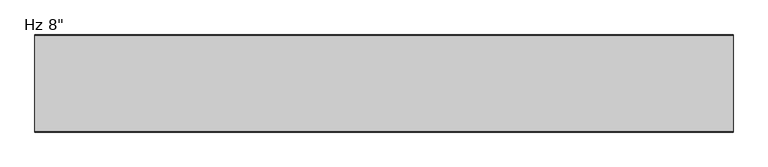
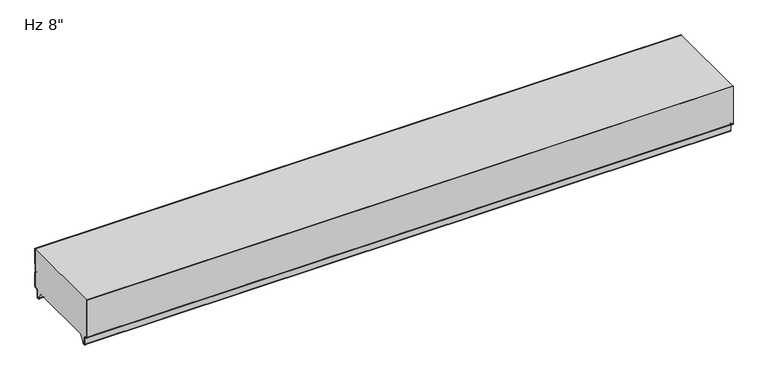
"""IFC4 building model written with IfcOpenShell, lengths in millimetres: plate geometry."""

from ifc_helpers import new_model, si_unit, frame, origin, place, context, project, spatial, polyline, circle_curve, source, transform, mapped, element, save
from ifc_brep_helpers import plane_surface, cylinder_surface, revolved_surface, advanced_brep


def plate_18e5794d(model_context):
    return source(origin(), model_context, "Body", "AdvancedBrep", [
        advanced_brep(
        [(-730.0, -1.0, 59.9218553), (-730.0, -1.0, 94.95), (-730.0, 0.0, 94.95), (-730.0, 0.0, 59.479416), (-730.0, -1.1911595, 58.4068912), (-730.0, -1.1911595, 39.5087751), (-730.0, 0.0, 38.4362503), (-730.0, 0.0, 5.8272193), (-730.0, -2.9772904, 2.8499526), (-730.0, -5.2691742, 2.8499526), (-730.0, -8.2464427, -0.1273159), (-730.0, -8.2464427, -15.7237419), (-730.0, -9.8343193, -17.3116185), (-730.0, -12.905868, -17.3116185), (-730.0, -14.4937445, -15.7237419), (-730.0, -14.4937445, -13.3687064), (-730.0, -13.4937445, -13.3687064), (-730.0, -13.4937445, -15.7237419), (-730.0, -12.905868, -16.3116185), (-730.0, -9.8343193, -16.3116185), (-730.0, -9.2464427, -15.7237419), (-730.0, -9.2464427, -0.1273159), (-730.0, -5.2691742, 3.8499526), (-730.0, -2.9772904, 3.8499526), (-730.0, -1.0000218, 5.82722), (-730.0, -1.0, 37.993811), (-730.0, -2.1911595, 39.0663358), (-730.0, -2.1911595, 58.8493305), (730.0, 0.0, 59.479416), (730.0, 0.0, 94.95), (730.0, -1.0, 94.95), (730.0, -1.0, 59.9218553), (730.0, -2.1911595, 58.8493305), (730.0, -2.1911595, 39.0663358), (730.0, -1.0, 37.993811), (730.0, -1.0, 5.82722), (730.0, -2.9772904, 3.8499526), (730.0, -5.2691742, 3.8499526), (730.0, -9.2464427, -0.1273159), (730.0, -9.2464427, -15.7237419), (730.0, -9.8343193, -16.3116185), (730.0, -12.905868, -16.3116185), (730.0, -13.4937445, -15.7237419), (730.0, -13.4937445, -13.3687064), (730.0, -14.4937445, -13.3687064), (730.0, -14.4937445, -15.7237419), (730.0, -12.905868, -17.3116185), (730.0, -9.8343193, -17.3116185), (730.0, -8.2464427, -15.7237419), (730.0, -8.2464427, -0.1273159), (730.0, -5.2691742, 2.8499526), (730.0, -2.9772904, 2.8499526), (730.0, -2.18e-05, 5.8272193), (730.0, 0.0, 38.4362503), (730.0, -1.1911595, 39.5087751), (730.0, -1.1911595, 58.4068912)],
        [
            (0, 1),
            (1, 2),
            (2, 3),
            (3, 4),
            (4, 5),
            (5, 6),
            (6, 7),
            (7, 8, circle_curve(frame((-730.0, -2.9772904, 5.8272211), z_axis=(-1.0, 0.0, 0.0), x_axis=(0.0, 1.0, 0.0)), 2.9772685)),
            (8, 9),
            (9, 10, circle_curve(frame((-730.0, -5.2691742, -0.1273159), z_axis=(1.0, 0.0, 0.0), x_axis=(0.0, 1.0, 0.0)), 2.9772685)),
            (10, 11),
            (11, 12, circle_curve(frame((-730.0, -9.8343193, -15.7237419), z_axis=(-1.0, 0.0, 0.0), x_axis=(0.0, 1.0, 0.0)), 1.5878765)),
            (12, 13),
            (13, 14, circle_curve(frame((-730.0, -12.905868, -15.7237419), z_axis=(-1.0, 0.0, 0.0), x_axis=(0.0, 1.0, 0.0)), 1.5878765)),
            (14, 15),
            (15, 16),
            (16, 17),
            (17, 18, circle_curve(frame((-730.0, -12.905868, -15.7237419), z_axis=(1.0, 0.0, 0.0), x_axis=(0.0, 1.0, 0.0)), 0.5878765)),
            (18, 19),
            (19, 20, circle_curve(frame((-730.0, -9.8343193, -15.7237419), z_axis=(1.0, 0.0, 0.0), x_axis=(0.0, 1.0, 0.0)), 0.5878765)),
            (20, 21),
            (21, 22, circle_curve(frame((-730.0, -5.2691742, -0.1273159), z_axis=(-1.0, 0.0, 0.0), x_axis=(0.0, 1.0, 0.0)), 3.9772685)),
            (22, 23),
            (23, 24, circle_curve(frame((-730.0, -2.9772904, 5.8272212), z_axis=(1.0, 0.0, 0.0), x_axis=(0.0, 1.0, 0.0)), 1.9772685)),
            (24, 25),
            (25, 26),
            (26, 27),
            (27, 0),
            (28, 29),
            (29, 30),
            (30, 31),
            (31, 32),
            (32, 33),
            (33, 34),
            (34, 35),
            (35, 36, circle_curve(frame((730.0, -2.9772904, 5.8272212), z_axis=(-1.0, 0.0, 0.0), x_axis=(0.0, 1.0, 0.0)), 1.9772685)),
            (36, 37),
            (37, 38, circle_curve(frame((730.0, -5.2691742, -0.1273159), z_axis=(1.0, 0.0, 0.0), x_axis=(0.0, 1.0, 0.0)), 3.9772685)),
            (38, 39),
            (39, 40, circle_curve(frame((730.0, -9.8343193, -15.7237419), z_axis=(-1.0, 0.0, 0.0), x_axis=(0.0, 1.0, 0.0)), 0.5878765)),
            (40, 41),
            (41, 42, circle_curve(frame((730.0, -12.905868, -15.7237419), z_axis=(-1.0, 0.0, 0.0), x_axis=(0.0, 1.0, 0.0)), 0.5878765)),
            (42, 43),
            (43, 44),
            (44, 45),
            (45, 46, circle_curve(frame((730.0, -12.905868, -15.7237419), z_axis=(1.0, 0.0, 0.0), x_axis=(0.0, 1.0, 0.0)), 1.5878765)),
            (46, 47),
            (47, 48, circle_curve(frame((730.0, -9.8343193, -15.7237419), z_axis=(1.0, 0.0, 0.0), x_axis=(0.0, 1.0, 0.0)), 1.5878765)),
            (48, 49),
            (49, 50, circle_curve(frame((730.0, -5.2691742, -0.1273159), z_axis=(-1.0, 0.0, 0.0), x_axis=(0.0, 1.0, 0.0)), 2.9772685)),
            (50, 51),
            (51, 52, circle_curve(frame((730.0, -2.9772904, 5.8272211), z_axis=(1.0, 0.0, 0.0), x_axis=(0.0, 1.0, 0.0)), 2.9772685)),
            (52, 53),
            (53, 54),
            (54, 55),
            (55, 28),
            (30, 1),
            (0, 31),
            (27, 32),
            (26, 33),
            (25, 34),
            (24, 35),
            (23, 36),
            (22, 37),
            (21, 38),
            (20, 39),
            (19, 40),
            (18, 41),
            (17, 42),
            (16, 43),
            (15, 44),
            (14, 45),
            (13, 46),
            (12, 47),
            (11, 48),
            (10, 49),
            (9, 50),
            (8, 51),
            (7, 52),
            (6, 53),
            (5, 54),
            (4, 55),
            (3, 28),
            (2, 29),
        ],
        [
            plane_surface(frame((-730.0, 0.0, 576.2625), z_axis=(-1.0, 0.0, 0.0), x_axis=(0.0, 1.0, 0.0))),
            plane_surface(frame((730.0, 0.0, 576.2625), z_axis=(1.0, 0.0, 0.0), x_axis=(0.0, 1.0, 0.0))),
            plane_surface(frame((-730.0, -1.0, 113.6164312), z_axis=(0.0, -1.0, 0.0), x_axis=(1.0, 0.0, 0.0))),
            plane_surface(frame((-730.0, -1.0, 59.9218553), z_axis=(0.0, -0.6691306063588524, 0.7431448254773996), x_axis=(1.0, 0.0, 0.0))),
            plane_surface(frame((-730.0, -2.1911595, 58.8493305), z_axis=(0.0, -1.0, 0.0), x_axis=(1.0, 0.0, 0.0))),
            plane_surface(frame((-730.0, -2.1911595, 39.0663358), z_axis=(0.0, -0.6691306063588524, -0.7431448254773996), x_axis=(1.0, 0.0, 0.0))),
            plane_surface(frame((-730.0, -1.0, 37.993811), z_axis=(0.0, -1.0, 0.0), x_axis=(1.0, 0.0, 0.0))),
            revolved_surface(polyline([(730.0, -1.0000218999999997, 5.8272212), (-730.0, -1.0000218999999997, 5.8272212)]), (-730.0, -2.9772904, 5.8272212), (1.0, 0.0, 0.0)),
            plane_surface(frame((-730.0, -2.9772904, 3.8499526), z_axis=(0.0, 0.0, 1.0), x_axis=(1.0, 0.0, 0.0))),
            cylinder_surface(frame((-730.0, -5.2691742, -0.1273159), z_axis=(-1.0, 0.0, 0.0), x_axis=(0.0, 1.0, 0.0)), 3.9772685),
            plane_surface(frame((-730.0, -9.2464427, -0.1273159), z_axis=(0.0, -1.0, 0.0), x_axis=(1.0, 0.0, 0.0))),
            revolved_surface(polyline([(730.0, -9.2464428, -15.7237419), (-730.0, -9.2464428, -15.7237419)]), (-730.0, -9.8343193, -15.7237419), (1.0, 0.0, 0.0)),
            plane_surface(frame((-730.0, -9.8343193, -16.3116185), z_axis=(0.0, 0.0, 1.0), x_axis=(1.0, 0.0, 0.0))),
            revolved_surface(polyline([(730.0, -12.3179915, -15.7237419), (-730.0, -12.3179915, -15.7237419)]), (-730.0, -12.905868, -15.7237419), (1.0, 0.0, 0.0)),
            plane_surface(frame((-730.0, -13.4937445, -15.7237419), z_axis=(0.0, 1.0, 0.0), x_axis=(1.0, 0.0, 0.0))),
            plane_surface(frame((-730.0, -13.4937445, -13.3687064), z_axis=(0.0, 0.0, 1.0), x_axis=(1.0, 0.0, 0.0))),
            plane_surface(frame((-730.0, -14.4937445, -13.3687064), z_axis=(0.0, -1.0, 0.0), x_axis=(1.0, 0.0, 0.0))),
            cylinder_surface(frame((-730.0, -12.905868, -15.7237419), z_axis=(-1.0, 0.0, 0.0), x_axis=(0.0, 1.0, 0.0)), 1.5878765),
            plane_surface(frame((-730.0, -12.905868, -17.3116185), z_axis=(0.0, 0.0, -1.0), x_axis=(1.0, 0.0, 0.0))),
            cylinder_surface(frame((-730.0, -9.8343193, -15.7237419), z_axis=(-1.0, 0.0, 0.0), x_axis=(0.0, 1.0, 0.0)), 1.5878765),
            plane_surface(frame((-730.0, -8.2464427, -15.7237419), z_axis=(0.0, 1.0, 0.0), x_axis=(1.0, 0.0, 0.0))),
            revolved_surface(polyline([(730.0, -2.2919057, -0.1273159), (-730.0, -2.2919057, -0.1273159)]), (-730.0, -5.2691742, -0.1273159), (1.0, 0.0, 0.0)),
            plane_surface(frame((-730.0, -5.2691742, 2.8499526), z_axis=(0.0, 0.0, -1.0), x_axis=(1.0, 0.0, 0.0))),
            cylinder_surface(frame((-730.0, -2.9772904, 5.8272211), z_axis=(-1.0, 0.0, 0.0), x_axis=(0.0, 1.0, 0.0)), 2.9772685),
            plane_surface(frame((-730.0, 0.0, 5.8272193), z_axis=(0.0, 1.0, 0.0), x_axis=(1.0, 0.0, 0.0))),
            plane_surface(frame((-730.0, 0.0, 38.4362503), z_axis=(0.0, 0.6691306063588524, 0.7431448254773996), x_axis=(1.0, 0.0, 0.0))),
            plane_surface(frame((-730.0, -1.1911595, 39.5087751), z_axis=(0.0, 1.0, 0.0), x_axis=(1.0, 0.0, 0.0))),
            plane_surface(frame((-730.0, -1.1911595, 58.4068912), z_axis=(0.0, 0.6691306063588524, -0.7431448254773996), x_axis=(1.0, 0.0, 0.0))),
            plane_surface(frame((-730.0, 0.0, 59.479416), z_axis=(0.0, 1.0, 0.0), x_axis=(1.0, 0.0, 0.0))),
            plane_surface(frame((730.0, 10.0, 94.95), z_axis=(0.0, 0.0, 1.0), x_axis=(-1.0, 0.0, 0.0))),
        ],
        [
            (0, [[1, 2, 3, 4, 5, 6, 7, 8, 9, 10, 11, 12, 13, 14, 15, 16, 17, 18, 19, 20, 21, 22, 23, 24, 25, 26, 27, 28]]),
            (1, [[29, 30, 31, 32, 33, 34, 35, 36, 37, 38, 39, 40, 41, 42, 43, 44, 45, 46, 47, 48, 49, 50, 51, 52, 53, 54, 55, 56]]),
            (2, [[-31, 57, -1, 58]]),
            (3, [[59, -32, -58, -28]]),
            (4, [[60, -33, -59, -27]]),
            (5, [[61, -34, -60, -26]]),
            (6, [[62, -35, -61, -25]]),
            (7, [[63, -36, -62, -24]]),
            (8, [[64, -37, -63, -23]]),
            (9, [[65, -38, -64, -22]]),
            (10, [[66, -39, -65, -21]]),
            (11, [[67, -40, -66, -20]]),
            (12, [[68, -41, -67, -19]]),
            (13, [[69, -42, -68, -18]]),
            (14, [[70, -43, -69, -17]]),
            (15, [[71, -44, -70, -16]]),
            (16, [[72, -45, -71, -15]]),
            (17, [[73, -46, -72, -14]]),
            (18, [[74, -47, -73, -13]]),
            (19, [[75, -48, -74, -12]]),
            (20, [[76, -49, -75, -11]]),
            (21, [[77, -50, -76, -10]]),
            (22, [[78, -51, -77, -9]]),
            (23, [[79, -52, -78, -8]]),
            (24, [[80, -53, -79, -7]]),
            (25, [[81, -54, -80, -6]]),
            (26, [[82, -55, -81, -5]]),
            (27, [[83, -56, -82, -4]]),
            (28, [[-3, 84, -29, -83]]),
            (29, [[-57, -30, -84, -2]]),
        ],
    ),
        advanced_brep(
        [(-730.0, -200.2223811, 3.8501063), (-730.0, -197.9308685, 3.8501063), (-730.0, -193.9535232, -0.1272391), (-730.0, -193.9535232, -15.7237514), (-730.0, -193.365666, -16.3116086), (-730.0, -190.2941346, -16.3116086), (-730.0, -189.7062635, -15.7237374), (-730.0, -189.7062635, -13.3687064), (-730.0, -188.7062599, -13.3687064), (-730.0, -188.7062599, -15.7237419), (-730.0, -190.2941364, -17.3116185), (-730.0, -193.3656851, -17.3116185), (-730.0, -194.9535616, -15.7237419), (-730.0, -194.9535616, -0.1273159), (-730.0, -197.9308302, 2.8499526), (-730.0, -200.222714, 2.8499526), (-730.0, -203.1999825, 5.8272211), (-730.0, -203.2, 94.95), (-730.0, -202.1992912, 94.95), (-730.0, -202.1992912, 5.8270163), (730.0, -200.2223811, 3.8501063), (730.0, -202.1992912, 5.8270163), (730.0, -202.1992912, 94.95), (730.0, -203.2, 94.95), (730.0, -203.2, 5.8272211), (730.0, -200.222714, 2.8499526), (730.0, -197.9308302, 2.8499526), (730.0, -194.9535616, -0.1273159), (730.0, -194.9535616, -15.7237419), (730.0, -193.3656851, -17.3116185), (730.0, -190.2941364, -17.3116185), (730.0, -188.7062599, -15.7237419), (730.0, -188.7062599, -13.3687064), (730.0, -189.7062635, -13.3687064), (730.0, -189.7062635, -15.7237374), (730.0, -190.2941346, -16.3116086), (730.0, -193.365666, -16.3116086), (730.0, -193.9535232, -15.7237514), (730.0, -193.9535232, -0.1272391), (730.0, -197.9308685, 3.8501063)],
        [
            (0, 1),
            (1, 2, circle_curve(frame((-730.0, -197.9308685, -0.1272391), z_axis=(-1.0, 0.0, 0.0), x_axis=(0.0, 0.0, -1.0)), 3.9773454)),
            (2, 3),
            (3, 4, circle_curve(frame((-730.0, -193.365666, -15.7237514), z_axis=(1.0, 0.0, 0.0), x_axis=(0.0, 0.0, -1.0)), 0.5878572)),
            (4, 5),
            (5, 6, circle_curve(frame((-730.0, -190.2941346, -15.7237374), z_axis=(1.0, 0.0, 0.0), x_axis=(0.0, 0.0, -1.0)), 0.5878711)),
            (6, 7),
            (7, 8),
            (8, 9),
            (9, 10, circle_curve(frame((-730.0, -190.2941364, -15.7237419), z_axis=(-1.0, 0.0, 0.0), x_axis=(0.0, 0.0, -1.0)), 1.5878765)),
            (10, 11),
            (11, 12, circle_curve(frame((-730.0, -193.3656851, -15.7237419), z_axis=(-1.0, 0.0, 0.0), x_axis=(0.0, 0.0, -1.0)), 1.5878765)),
            (12, 13),
            (13, 14, circle_curve(frame((-730.0, -197.9308302, -0.1273159), z_axis=(1.0, 0.0, 0.0), x_axis=(0.0, 0.0, -1.0)), 2.9772685)),
            (14, 15),
            (15, 16, circle_curve(frame((-730.0, -200.222714, 5.8272211), z_axis=(-1.0, 0.0, 0.0), x_axis=(0.0, 0.0, -1.0)), 2.9772685)),
            (16, 17),
            (17, 18),
            (18, 19),
            (19, 0, circle_curve(frame((-730.0, -200.2223811, 5.8270163), z_axis=(1.0, 0.0, 0.0), x_axis=(0.0, 0.0, -1.0)), 1.9769101)),
            (20, 21, circle_curve(frame((730.0, -200.2223811, 5.8270163), z_axis=(-1.0, 0.0, 0.0), x_axis=(0.0, 0.0, -1.0)), 1.9769101)),
            (21, 22),
            (22, 23),
            (23, 24),
            (24, 25, circle_curve(frame((730.0, -200.222714, 5.8272211), z_axis=(1.0, 0.0, 0.0), x_axis=(0.0, 0.0, -1.0)), 2.9772685)),
            (25, 26),
            (26, 27, circle_curve(frame((730.0, -197.9308302, -0.1273159), z_axis=(-1.0, 0.0, 0.0), x_axis=(0.0, 0.0, -1.0)), 2.9772685)),
            (27, 28),
            (28, 29, circle_curve(frame((730.0, -193.3656851, -15.7237419), z_axis=(1.0, 0.0, 0.0), x_axis=(0.0, 0.0, -1.0)), 1.5878765)),
            (29, 30),
            (30, 31, circle_curve(frame((730.0, -190.2941364, -15.7237419), z_axis=(1.0, 0.0, 0.0), x_axis=(0.0, 0.0, -1.0)), 1.5878765)),
            (31, 32),
            (32, 33),
            (33, 34),
            (34, 35, circle_curve(frame((730.0, -190.2941346, -15.7237374), z_axis=(-1.0, 0.0, 0.0), x_axis=(0.0, 0.0, -1.0)), 0.5878711)),
            (35, 36),
            (36, 37, circle_curve(frame((730.0, -193.365666, -15.7237514), z_axis=(-1.0, 0.0, 0.0), x_axis=(0.0, 0.0, -1.0)), 0.5878572)),
            (37, 38),
            (38, 39, circle_curve(frame((730.0, -197.9308685, -0.1272391), z_axis=(1.0, 0.0, 0.0), x_axis=(0.0, 0.0, -1.0)), 3.9773454)),
            (39, 20),
            (17, 23),
            (22, 18),
            (19, 21),
            (20, 0),
            (16, 24),
            (15, 25),
            (14, 26),
            (13, 27),
            (12, 28),
            (11, 29),
            (10, 30),
            (9, 31),
            (8, 32),
            (7, 33),
            (6, 34),
            (5, 35),
            (4, 36),
            (3, 37),
            (2, 38),
            (1, 39),
        ],
        [
            plane_surface(frame((-730.0, -203.2, 576.2625), z_axis=(-1.0, 0.0, 0.0), x_axis=(0.0, -1.0, 0.0))),
            plane_surface(frame((730.0, -203.2, 576.2625), z_axis=(1.0, 0.0, 0.0), x_axis=(0.0, -1.0, 0.0))),
            plane_surface(frame((730.0, 10.0, 94.95), z_axis=(0.0, 0.0, 1.0), x_axis=(-1.0, 0.0, 0.0))),
            revolved_surface(polyline([(730.0, -200.2223811, 3.8501062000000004), (-730.0, -200.2223811, 3.8501062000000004)]), (-730.0, -200.2223811, 5.8270163), (1.0, 0.0, 0.0)),
            plane_surface(frame((-730.0, -202.1992912, 5.8270163), z_axis=(0.0, 1.0, 0.0), x_axis=(1.0, 0.0, 0.0))),
            plane_surface(frame((-730.0, -203.2, 1150.8100652), z_axis=(0.0, -1.0, 0.0), x_axis=(1.0, 0.0, 0.0))),
            cylinder_surface(frame((-730.0, -200.222714, 5.8272211), z_axis=(-1.0, 0.0, 0.0), x_axis=(0.0, 0.0, -1.0)), 2.9772685),
            plane_surface(frame((-730.0, -200.222714, 2.8499526), z_axis=(0.0, 0.0, -1.0), x_axis=(1.0, 0.0, 0.0))),
            revolved_surface(polyline([(730.0, -197.9308302, -3.1045844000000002), (-730.0, -197.9308302, -3.1045844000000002)]), (-730.0, -197.9308302, -0.1273159), (1.0, 0.0, 0.0)),
            plane_surface(frame((-730.0, -194.9535616, -0.1273159), z_axis=(0.0, -1.0, 0.0), x_axis=(1.0, 0.0, 0.0))),
            cylinder_surface(frame((-730.0, -193.3656851, -15.7237419), z_axis=(-1.0, 0.0, 0.0), x_axis=(0.0, 0.0, -1.0)), 1.5878765),
            plane_surface(frame((-730.0, -193.3656851, -17.3116185), z_axis=(0.0, 0.0, -1.0), x_axis=(1.0, 0.0, 0.0))),
            cylinder_surface(frame((-730.0, -190.2941364, -15.7237419), z_axis=(-1.0, 0.0, 0.0), x_axis=(0.0, 0.0, -1.0)), 1.5878765),
            plane_surface(frame((-730.0, -188.7062599, -15.7237419), z_axis=(0.0, 1.0, 0.0), x_axis=(1.0, 0.0, 0.0))),
            plane_surface(frame((-730.0, -188.7062599, -13.3687064), z_axis=(0.0, 0.0, 1.0), x_axis=(1.0, 0.0, 0.0))),
            plane_surface(frame((-730.0, -189.7062635, -13.3687064), z_axis=(0.0, -1.0, 0.0), x_axis=(1.0, 0.0, 0.0))),
            revolved_surface(polyline([(730.0, -190.2941346, -16.3116085), (-730.0, -190.2941346, -16.3116085)]), (-730.0, -190.2941346, -15.7237374), (1.0, 0.0, 0.0)),
            plane_surface(frame((-730.0, -190.2941346, -16.3116086), z_axis=(0.0, 0.0, 1.0), x_axis=(1.0, 0.0, 0.0))),
            revolved_surface(polyline([(730.0, -193.365666, -16.3116086), (-730.0, -193.365666, -16.3116086)]), (-730.0, -193.365666, -15.7237514), (1.0, 0.0, 0.0)),
            plane_surface(frame((-730.0, -193.9535232, -15.7237514), z_axis=(0.0, 1.0, 0.0), x_axis=(1.0, 0.0, 0.0))),
            cylinder_surface(frame((-730.0, -197.9308685, -0.1272391), z_axis=(-1.0, 0.0, 0.0), x_axis=(0.0, 0.0, -1.0)), 3.9773454),
            plane_surface(frame((-730.0, -197.9308685, 3.8501063), z_axis=(0.0, 0.0, 1.0), x_axis=(1.0, 0.0, 0.0))),
        ],
        [
            (0, [[1, 2, 3, 4, 5, 6, 7, 8, 9, 10, 11, 12, 13, 14, 15, 16, 17, 18, 19, 20]]),
            (1, [[21, 22, 23, 24, 25, 26, 27, 28, 29, 30, 31, 32, 33, 34, 35, 36, 37, 38, 39, 40]]),
            (2, [[41, -23, 42, -18]]),
            (3, [[43, -21, 44, -20]]),
            (4, [[-19, -42, -22, -43]]),
            (5, [[-24, -41, -17, 45]]),
            (6, [[46, -25, -45, -16]]),
            (7, [[47, -26, -46, -15]]),
            (8, [[48, -27, -47, -14]]),
            (9, [[49, -28, -48, -13]]),
            (10, [[50, -29, -49, -12]]),
            (11, [[51, -30, -50, -11]]),
            (12, [[52, -31, -51, -10]]),
            (13, [[53, -32, -52, -9]]),
            (14, [[54, -33, -53, -8]]),
            (15, [[55, -34, -54, -7]]),
            (16, [[56, -35, -55, -6]]),
            (17, [[57, -36, -56, -5]]),
            (18, [[58, -37, -57, -4]]),
            (19, [[59, -38, -58, -3]]),
            (20, [[60, -39, -59, -2]]),
            (21, [[-44, -40, -60, -1]]),
        ],
    ),
        advanced_brep(
        [(-730.0, -200.2227194, 3.8499499), (-730.0, -202.1999935, 5.8272239), (-730.0, -202.2, 94.95), (-730.0, -1.0, 94.95), (-730.0, -1.0, 59.9218553), (-730.0, -2.1911595, 58.8493305), (-730.0, -2.1911595, 39.0663358), (-730.0, -1.0000109, 37.993811), (-730.0, -1.0000109, 5.8272239), (-730.0, -2.9772849, 3.8499499), (-730.0, -5.2691749, 3.8499499), (-730.0, -9.246442, -0.1273173), (-730.0, -9.246442, -15.7237417), (-730.0, -9.8343189, -16.3116186), (-730.0, -12.9058679, -16.3116186), (-730.0, -13.4937446, -15.723742), (-730.0, -13.4937446, -13.3687064), (-730.0, -14.4937446, -13.3687064), (-730.0, -14.4937446, -15.6582851), (-730.0, -23.7509179, 0.0), (-730.0, -179.4490865, 0.0), (-730.0, -188.7062598, -15.6582851), (-730.0, -188.7062598, -13.3687064), (-730.0, -189.7062598, -13.3687064), (-730.0, -189.7062598, -15.723742), (-730.0, -190.2941365, -16.3116186), (-730.0, -193.3656854, -16.3116186), (-730.0, -193.9535623, -15.7237417), (-730.0, -193.9535623, -0.1273173), (-730.0, -197.9308295, 3.8499499), (730.0, -200.2227194, 3.8499499), (730.0, -197.9308295, 3.8499499), (730.0, -193.9535623, -0.1273173), (730.0, -193.9535623, -15.7237417), (730.0, -193.3656854, -16.3116186), (730.0, -190.2941365, -16.3116186), (730.0, -189.7062598, -15.723742), (730.0, -189.7062598, -13.3687064), (730.0, -188.7062598, -13.3687064), (730.0, -188.7062598, -15.6582851), (730.0, -179.4490865, 0.0), (730.0, -23.7509179, 0.0), (730.0, -14.4937446, -15.6582851), (730.0, -14.4937446, -13.3687064), (730.0, -13.4937446, -13.3687064), (730.0, -13.4937446, -15.723742), (730.0, -12.9058679, -16.3116186), (730.0, -9.8343189, -16.3116186), (730.0, -9.246442, -15.7237417), (730.0, -9.246442, -0.1273173), (730.0, -5.2691749, 3.8499499), (730.0, -2.9772849, 3.8499499), (730.0, -1.0000109, 5.8272239), (730.0, -1.0000109, 37.993811), (730.0, -2.1911595, 39.0663358), (730.0, -2.1911595, 58.8493305), (730.0, -1.0, 59.9218553), (730.0, -1.0, 94.95), (730.0, -202.2, 94.95), (730.0, -202.2, 5.8272239)],
        [
            (0, 1, circle_curve(frame((-730.0, -200.2227194, 5.8272239), z_axis=(-1.0, 0.0, 0.0), x_axis=(0.0, 0.0, -1.0)), 1.977274)),
            (1, 2),
            (2, 3),
            (3, 4),
            (4, 5),
            (5, 6),
            (6, 7),
            (7, 8),
            (8, 9, circle_curve(frame((-730.0, -2.9772849, 5.8272239), z_axis=(-1.0, 0.0, 0.0), x_axis=(0.0, 1.0, 0.0)), 1.977274)),
            (9, 10),
            (10, 11, circle_curve(frame((-730.0, -5.2691749, -0.1273173), z_axis=(1.0, 0.0, 0.0), x_axis=(0.0, 1.0, 0.0)), 3.9772671)),
            (11, 12),
            (12, 13, circle_curve(frame((-730.0, -9.8343189, -15.7237417), z_axis=(-1.0, 0.0, 0.0), x_axis=(0.0, 1.0, 0.0)), 0.5878769)),
            (13, 14),
            (14, 15, circle_curve(frame((-730.0, -12.9058679, -15.723742), z_axis=(-1.0, 0.0, 0.0), x_axis=(0.0, 1.0, 0.0)), 0.5878766)),
            (15, 16),
            (16, 17),
            (17, 18),
            (18, 19),
            (19, 20),
            (20, 21),
            (21, 22),
            (22, 23),
            (23, 24),
            (24, 25, circle_curve(frame((-730.0, -190.2941365, -15.723742), z_axis=(-1.0, 0.0, 0.0), x_axis=(0.0, 0.0, -1.0)), 0.5878766)),
            (25, 26),
            (26, 27, circle_curve(frame((-730.0, -193.3656854, -15.7237417), z_axis=(-1.0, 0.0, 0.0), x_axis=(0.0, 0.0, -1.0)), 0.5878769)),
            (27, 28),
            (28, 29, circle_curve(frame((-730.0, -197.9308295, -0.1273173), z_axis=(1.0, 0.0, 0.0), x_axis=(0.0, 0.0, -1.0)), 3.9772671)),
            (29, 0),
            (30, 31),
            (31, 32, circle_curve(frame((730.0, -197.9308295, -0.1273173), z_axis=(-1.0, 0.0, 0.0), x_axis=(0.0, 0.0, -1.0)), 3.9772671)),
            (32, 33),
            (33, 34, circle_curve(frame((730.0, -193.3656854, -15.7237417), z_axis=(1.0, 0.0, 0.0), x_axis=(0.0, 0.0, -1.0)), 0.5878769)),
            (34, 35),
            (35, 36, circle_curve(frame((730.0, -190.2941365, -15.723742), z_axis=(1.0, 0.0, 0.0), x_axis=(0.0, 0.0, -1.0)), 0.5878766)),
            (36, 37),
            (37, 38),
            (38, 39),
            (39, 40),
            (40, 41),
            (41, 42),
            (42, 43),
            (43, 44),
            (44, 45),
            (45, 46, circle_curve(frame((730.0, -12.9058679, -15.723742), z_axis=(1.0, 0.0, 0.0), x_axis=(0.0, 1.0, 0.0)), 0.5878766)),
            (46, 47),
            (47, 48, circle_curve(frame((730.0, -9.8343189, -15.7237417), z_axis=(1.0, 0.0, 0.0), x_axis=(0.0, 1.0, 0.0)), 0.5878769)),
            (48, 49),
            (49, 50, circle_curve(frame((730.0, -5.2691749, -0.1273173), z_axis=(-1.0, 0.0, 0.0), x_axis=(0.0, 1.0, 0.0)), 3.9772671)),
            (50, 51),
            (51, 52, circle_curve(frame((730.0, -2.9772849, 5.8272239), z_axis=(1.0, 0.0, 0.0), x_axis=(0.0, 1.0, 0.0)), 1.977274)),
            (52, 53),
            (53, 54),
            (54, 55),
            (55, 56),
            (56, 57),
            (57, 58),
            (58, 59),
            (59, 30, circle_curve(frame((730.0, -200.2227194, 5.8272239), z_axis=(1.0, 0.0, 0.0), x_axis=(0.0, 0.0, -1.0)), 1.977274)),
            (18, 42),
            (41, 19),
            (17, 43),
            (16, 44),
            (15, 45),
            (14, 46),
            (13, 47),
            (12, 48),
            (11, 49),
            (10, 50),
            (9, 51),
            (8, 52),
            (7, 53),
            (6, 54),
            (5, 55),
            (4, 56),
            (3, 57),
            (40, 20),
            (2, 58),
            (29, 31),
            (30, 0),
            (28, 32),
            (27, 33),
            (26, 34),
            (25, 35),
            (24, 36),
            (23, 37),
            (22, 38),
            (21, 39),
            (1, 59),
        ],
        [
            plane_surface(frame((-730.0, -202.2, 576.2625), z_axis=(-1.0, 0.0, 0.0), x_axis=(0.0, -1.0, 0.0))),
            plane_surface(frame((730.0, -202.2, 576.2625), z_axis=(1.0, 0.0, 0.0), x_axis=(0.0, -1.0, 0.0))),
            plane_surface(frame((-730.0, -23.7509179, 0.0), z_axis=(0.0, -0.8608169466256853, -0.5089147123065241), x_axis=(1.0, 0.0, 0.0))),
            plane_surface(frame((-730.0, -14.4937446, -15.6582851), z_axis=(0.0, 1.0, 0.0), x_axis=(1.0, 0.0, 0.0))),
            plane_surface(frame((-730.0, -14.4937446, -13.3687064), z_axis=(0.0, 0.0, -1.0), x_axis=(1.0, 0.0, 0.0))),
            plane_surface(frame((-730.0, -13.4937446, -13.3687064), z_axis=(0.0, -1.0, 0.0), x_axis=(1.0, 0.0, 0.0))),
            cylinder_surface(frame((-730.0, -12.9058679, -15.723742), z_axis=(-1.0, 0.0, 0.0), x_axis=(0.0, 1.0, 0.0)), 0.5878766),
            plane_surface(frame((-730.0, -12.9058679, -16.3116186), z_axis=(0.0, 0.0, -1.0), x_axis=(1.0, 0.0, 0.0))),
            cylinder_surface(frame((-730.0, -9.8343189, -15.7237417), z_axis=(-1.0, 0.0, 0.0), x_axis=(0.0, 1.0, 0.0)), 0.5878769),
            plane_surface(frame((-730.0, -9.246442, -15.7237417), z_axis=(0.0, 1.0, 0.0), x_axis=(1.0, 0.0, 0.0))),
            revolved_surface(polyline([(730.0, -1.2919078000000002, -0.1273173), (-730.0, -1.2919078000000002, -0.1273173)]), (-730.0, -5.2691749, -0.1273173), (1.0, 0.0, 0.0)),
            plane_surface(frame((-730.0, -5.2691749, 3.8499499), z_axis=(0.0, 0.0, -1.0), x_axis=(1.0, 0.0, 0.0))),
            cylinder_surface(frame((-730.0, -2.9772849, 5.8272239), z_axis=(-1.0, 0.0, 0.0), x_axis=(0.0, 1.0, 0.0)), 1.977274),
            plane_surface(frame((-730.0, -1.0000109, 5.8272239), z_axis=(0.0, 1.0, 0.0), x_axis=(1.0, 0.0, 0.0))),
            plane_surface(frame((-730.0, -1.0000109, 37.993811), z_axis=(0.0, 0.6691339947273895, 0.7431417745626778), x_axis=(1.0, 0.0, 0.0))),
            plane_surface(frame((-730.0, -2.1911595, 39.0663358), z_axis=(0.0, 1.0, 0.0), x_axis=(1.0, 0.0, 0.0))),
            plane_surface(frame((-730.0, -2.1911595, 58.8493305), z_axis=(0.0, 0.6691306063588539, -0.7431448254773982), x_axis=(1.0, 0.0, 0.0))),
            plane_surface(frame((-730.0, -1.0, 59.9218553), z_axis=(0.0, 1.0, 0.0), x_axis=(1.0, 0.0, 0.0))),
            plane_surface(frame((-730.0, -179.4490865, 0.0), z_axis=(0.0, 0.0, -1.0), x_axis=(1.0, 0.0, 0.0))),
            plane_surface(frame((730.0, 10.0, 94.95), z_axis=(0.0, 0.0, 1.0), x_axis=(-1.0, 0.0, 0.0))),
            plane_surface(frame((-730.0, -200.2227194, 3.8499499), z_axis=(0.0, 0.0, -1.0), x_axis=(1.0, 0.0, 0.0))),
            revolved_surface(polyline([(730.0, -197.9308295, -4.1045844), (-730.0, -197.9308295, -4.1045844)]), (-730.0, -197.9308295, -0.1273173), (1.0, 0.0, 0.0)),
            plane_surface(frame((-730.0, -193.9535623, -0.1273173), z_axis=(0.0, -1.0, 0.0), x_axis=(1.0, 0.0, 0.0))),
            cylinder_surface(frame((-730.0, -193.3656854, -15.7237417), z_axis=(-1.0, 0.0, 0.0), x_axis=(0.0, 0.0, -1.0)), 0.5878769),
            plane_surface(frame((-730.0, -193.3656854, -16.3116186), z_axis=(0.0, 0.0, -1.0), x_axis=(1.0, 0.0, 0.0))),
            cylinder_surface(frame((-730.0, -190.2941365, -15.723742), z_axis=(-1.0, 0.0, 0.0), x_axis=(0.0, 0.0, -1.0)), 0.5878766),
            plane_surface(frame((-730.0, -189.7062598, -15.723742), z_axis=(0.0, 1.0, 0.0), x_axis=(1.0, 0.0, 0.0))),
            plane_surface(frame((-730.0, -189.7062598, -13.3687064), z_axis=(0.0, 0.0, -1.0), x_axis=(1.0, 0.0, 0.0))),
            plane_surface(frame((-730.0, -188.7062598, -13.3687064), z_axis=(0.0, -1.0, 0.0), x_axis=(1.0, 0.0, 0.0))),
            plane_surface(frame((-730.0, -188.7062598, -15.6582851), z_axis=(0.0, 0.8608169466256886, -0.5089147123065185), x_axis=(1.0, 0.0, 0.0))),
            plane_surface(frame((-730.0, -202.2, 1150.8100652), z_axis=(0.0, -1.0, 0.0), x_axis=(1.0, 0.0, 0.0))),
            cylinder_surface(frame((-730.0, -200.2227194, 5.8272239), z_axis=(-1.0, 0.0, 0.0), x_axis=(0.0, 0.0, -1.0)), 1.977274),
        ],
        [
            (0, [[1, 2, 3, 4, 5, 6, 7, 8, 9, 10, 11, 12, 13, 14, 15, 16, 17, 18, 19, 20, 21, 22, 23, 24, 25, 26, 27, 28, 29, 30]]),
            (1, [[31, 32, 33, 34, 35, 36, 37, 38, 39, 40, 41, 42, 43, 44, 45, 46, 47, 48, 49, 50, 51, 52, 53, 54, 55, 56, 57, 58, 59, 60]]),
            (2, [[61, -42, 62, -19]]),
            (3, [[63, -43, -61, -18]]),
            (4, [[64, -44, -63, -17]]),
            (5, [[65, -45, -64, -16]]),
            (6, [[66, -46, -65, -15]]),
            (7, [[67, -47, -66, -14]]),
            (8, [[68, -48, -67, -13]]),
            (9, [[69, -49, -68, -12]]),
            (10, [[70, -50, -69, -11]]),
            (11, [[71, -51, -70, -10]]),
            (12, [[72, -52, -71, -9]]),
            (13, [[73, -53, -72, -8]]),
            (14, [[74, -54, -73, -7]]),
            (15, [[75, -55, -74, -6]]),
            (16, [[76, -56, -75, -5]]),
            (17, [[-4, 77, -57, -76]]),
            (18, [[78, -20, -62, -41]]),
            (19, [[79, -58, -77, -3]]),
            (20, [[80, -31, 81, -30]]),
            (21, [[82, -32, -80, -29]]),
            (22, [[83, -33, -82, -28]]),
            (23, [[84, -34, -83, -27]]),
            (24, [[85, -35, -84, -26]]),
            (25, [[86, -36, -85, -25]]),
            (26, [[87, -37, -86, -24]]),
            (27, [[88, -38, -87, -23]]),
            (28, [[89, -39, -88, -22]]),
            (29, [[-78, -40, -89, -21]]),
            (30, [[-59, -79, -2, 90]]),
            (31, [[-81, -60, -90, -1]]),
        ],
    ),
    ])


if __name__ == "__main__":
    model = new_model("IFC4")
    model_context = context("Model", 3, world=origin())
    ifc_project = project(units=[si_unit("LENGTHUNIT", "METRE", prefix="MILLI")], contexts=[model_context])
    site = spatial("IfcSite", under=ifc_project)
    building = spatial("IfcBuilding", under=site)
    placement = place(None, origin())
    plate_shape = plate_18e5794d(model_context)
    element("IfcPlate", 1, ObjectType="KIP-SLI-FLI-R19-CP-Hz-FL_SL : Hz 8\"", at=placement, inside=building, context=model_context, shape_type="MappedRepresentation", body=[
        mapped(plate_shape, transform((0.0, 0.0, 0.0), x_axis=(1.0, 0.0, 0.0), y_axis=(0.0, 1.0, 0.0), z_axis=(0.0, 0.0, 1.0))),
    ])
    save(model, "model.ifc")
